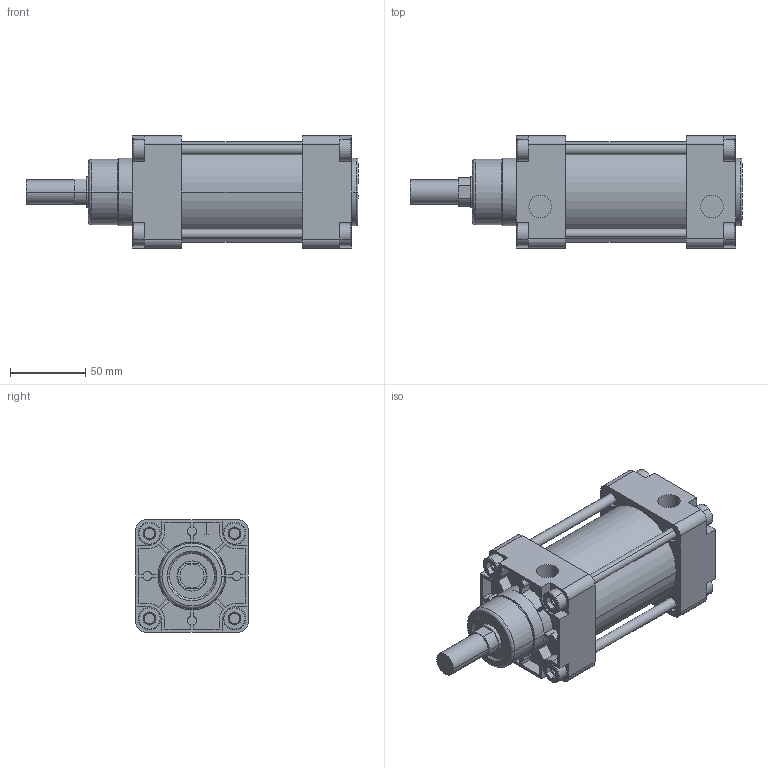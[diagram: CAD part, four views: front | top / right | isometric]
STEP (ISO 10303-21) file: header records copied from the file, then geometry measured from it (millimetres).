
FILE_DESCRIPTION(('CATIA V5 STEP Exchange'),'2;1');
FILE_NAME('D:\stp file for catalog\PNC\63\PNC 63-20-25.stp','2015-06-16T05:56:17+00:00',('none'),('none'),'Version 5-6 Release 2012','CATIA V5 STEP AP203','none');
FILE_SCHEMA(('CONFIG_CONTROL_DESIGN'));
Length unit declared in the file: millimetre
Products named in the file (1): PNC 63-20-25-00
Assembly tree (2 placements, depth 2):
  PNC 63-20-25-00
    #58
    #15151
Bounding box: 220.5 x 74.5 x 74.5 mm (x, y, z)
Volume: 587548.3 mm3; surface area: 134519.5 mm2
Topology: 6 solids, 6 shells, 572 faces, 1446 edges, 930 vertices
Faces by surface type: plane 356, cylinder 154, torus 26, cone 20, extrusion 16
Entity records: 15575 total; most frequent: CARTESIAN_POINT 3056, ORIENTED_EDGE 2892, DIRECTION 1926, EDGE_CURVE 1446, VECTOR 930, VERTEX_POINT 930, LINE 914, AXIS2_PLACEMENT_3D 732
